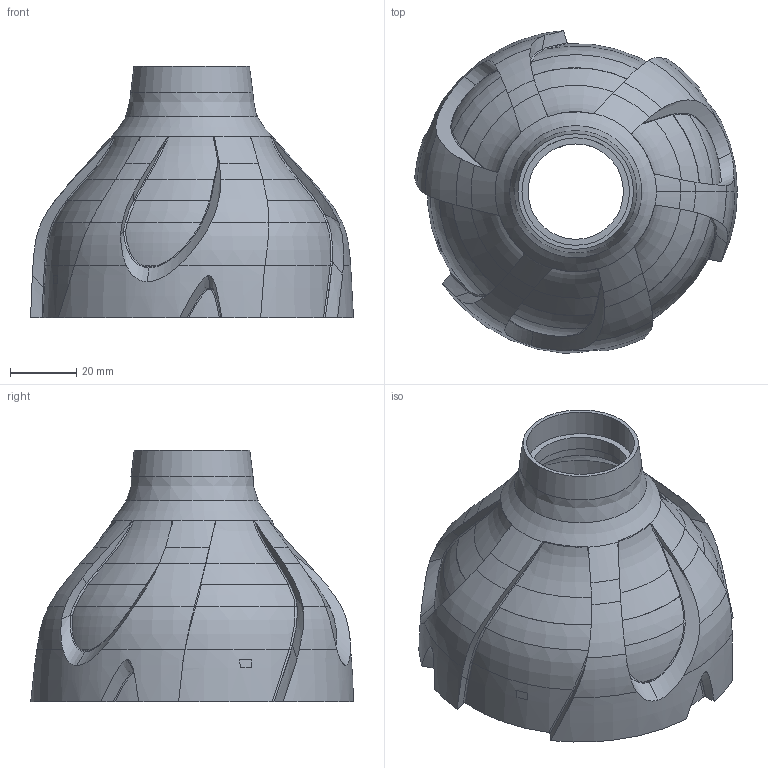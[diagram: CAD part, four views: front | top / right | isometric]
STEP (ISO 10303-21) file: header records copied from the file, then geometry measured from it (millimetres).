
FILE_DESCRIPTION(('Open CASCADE Model'),'2;1');
FILE_NAME('Open CASCADE Shape Model','2026-09-10T01:17:56',('Author'),( 'Open CASCADE'),'Open CASCADE STEP processor 7.9','Open CASCADE 7.9' ,'Unknown');
FILE_SCHEMA(('AUTOMOTIVE_DESIGN { 1 0 10303 214 1 1 1 1 }'));
Products named in the file (1): Open CASCADE STEP translator 7.9 1
Bounding box: 97.82 x 97.71 x 76.25 mm (x, y, z)
Volume: 96481.4 mm3; surface area: 47310.1 mm2
Topology: 1 solids, 1 shells, 441 faces, 1213 edges, 765 vertices
Faces by surface type: plane 186, bspline 89, revolution 78, extrusion 36, cylinder 36, cone 16
Full cylindrical faces by diameter (mm): 28.9 x1, 32.6 x1, 33 x1, 45.2 x1
Entity records: 44557 total; most frequent: CARTESIAN_POINT 34841, ORIENTED_EDGE 2400, DIRECTION 1427, EDGE_CURVE 1200, VERTEX_POINT 765, VECTOR 537, B_SPLINE_CURVE_WITH_KNOTS 520, LINE 501
